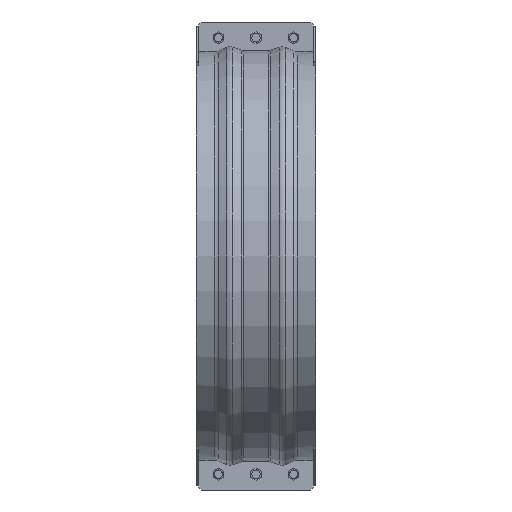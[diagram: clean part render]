
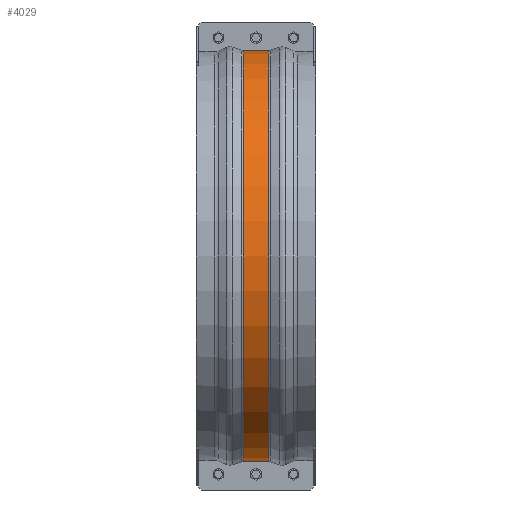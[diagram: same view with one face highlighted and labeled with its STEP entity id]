
A CAD part, front view. The second image highlights one B-rep face of the part: STEP entity #4029.
In plain terms, the highlighted cylindrical face has radius 546.402 mm (diameter 1092.8 mm), a partial arc.
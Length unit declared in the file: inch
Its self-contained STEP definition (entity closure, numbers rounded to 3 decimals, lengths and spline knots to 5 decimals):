
#376=FACE_OUTER_BOUND('',#601,.T.);
#601=EDGE_LOOP('',(#3049,#3050,#3051,#3052));
#915=LINE('',#6231,#1296);
#920=LINE('',#6369,#1301);
#1296=VECTOR('',#4981,0.3937);
#1301=VECTOR('',#5038,0.3937);
#1543=CIRCLE('',#4313,21.51189);
#1545=CIRCLE('',#4317,21.51189);
#1804=VERTEX_POINT('',#6223);
#1805=VERTEX_POINT('',#6230);
#1820=VERTEX_POINT('',#6354);
#1822=VERTEX_POINT('',#6367);
#2251=EDGE_CURVE('',#1805,#1804,#915,.T.);
#2276=EDGE_CURVE('',#1820,#1805,#1543,.T.);
#2280=EDGE_CURVE('',#1822,#1804,#1545,.T.);
#2281=EDGE_CURVE('',#1822,#1820,#920,.T.);
#3049=ORIENTED_EDGE('',*,*,#2251,.T.);
#3050=ORIENTED_EDGE('',*,*,#2280,.F.);
#3051=ORIENTED_EDGE('',*,*,#2281,.T.);
#3052=ORIENTED_EDGE('',*,*,#2276,.T.);
#3696=CYLINDRICAL_SURFACE('',#4316,21.51189);
#4029=ADVANCED_FACE('',(#376),#3696,.T.);
#4313=AXIS2_PLACEMENT_3D('',#6355,#5027,#5028);
#4316=AXIS2_PLACEMENT_3D('',#6366,#5034,#5035);
#4317=AXIS2_PLACEMENT_3D('',#6368,#5036,#5037);
#4981=DIRECTION('',(1.,0.,0.));
#5027=DIRECTION('center_axis',(1.,0.,0.));
#5028=DIRECTION('ref_axis',(0.,0.,-1.));
#5034=DIRECTION('center_axis',(1.,0.,0.));
#5035=DIRECTION('ref_axis',(0.,-1.,0.));
#5036=DIRECTION('center_axis',(1.,0.,0.));
#5037=DIRECTION('ref_axis',(0.,0.,-1.));
#5038=DIRECTION('',(-1.,0.,0.));
#6223=CARTESIAN_POINT('',(1.31451,-0.375,-21.50862));
#6230=CARTESIAN_POINT('',(-1.31451,-0.375,-21.50862));
#6231=CARTESIAN_POINT('',(0.,-0.375,-21.50862));
#6354=CARTESIAN_POINT('',(-1.31451,-0.375,21.50862));
#6355=CARTESIAN_POINT('Origin',(-1.31451,0.,
0.));
#6366=CARTESIAN_POINT('Origin',(0.,0.,0.));
#6367=CARTESIAN_POINT('',(1.31451,-0.375,21.50862));
#6368=CARTESIAN_POINT('Origin',(1.31451,0.,0.));
#6369=CARTESIAN_POINT('',(0.,-0.375,21.50862));
